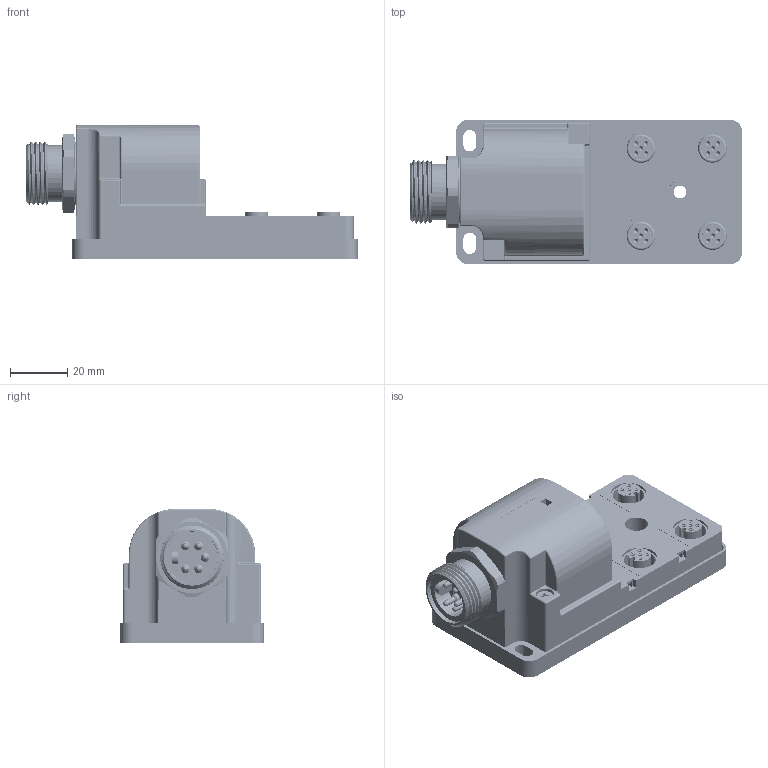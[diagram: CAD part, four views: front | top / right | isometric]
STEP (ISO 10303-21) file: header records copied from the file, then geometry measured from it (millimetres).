
FILE_DESCRIPTION (( 'STEP AP214' ), '1' );
FILE_NAME ('JDN-450-005-M000.STEP', '2009-03-31T02:08:22', ( '' ), ( '' ), 'SwSTEP 2.0', 'SolidWorks 2008', '' );
FILE_SCHEMA (( 'AUTOMOTIVE_DESIGN' ));
Length unit declared in the file: millimetre
Products named in the file (1): JDN-450-005-M000
Bounding box: 116.27 x 50.57 x 46.89 mm (x, y, z)
Volume: 59916.2 mm3; surface area: 79781.9 mm2
Topology: 52 solids, 52 shells, 4765 faces, 12027 edges, 7731 vertices
Faces by surface type: plane 2297, cylinder 1298, bspline 746, cone 284, torus 122, sphere 18
Entity records: 243248 total; most frequent: CARTESIAN_POINT 79421, ORIENTED_EDGE 23888, DIRECTION 21019, EDGE_CURVE 11944, VERTEX_POINT 7731, VECTOR 7047, LINE 7047, AXIS2_PLACEMENT_3D 6986
